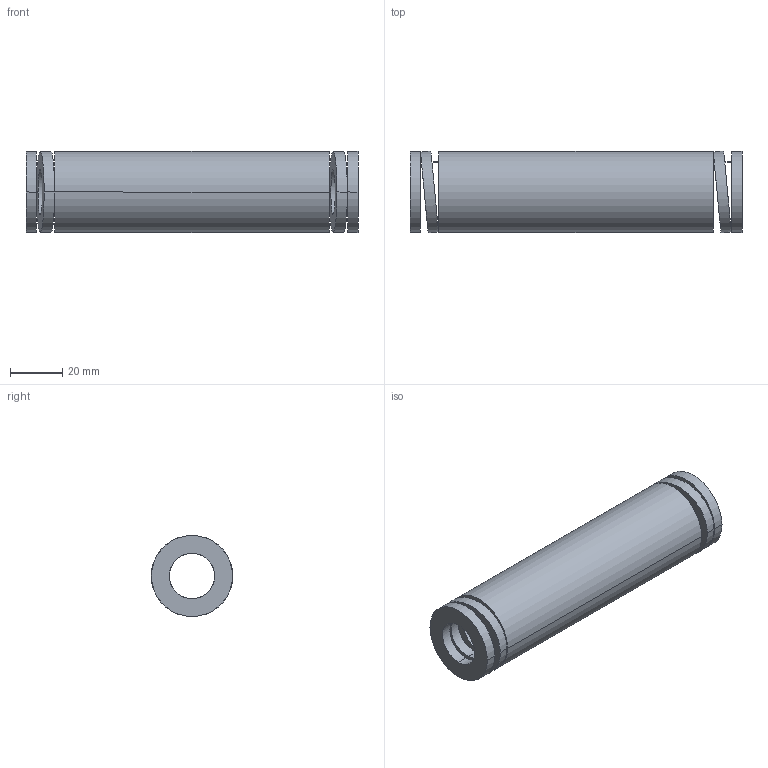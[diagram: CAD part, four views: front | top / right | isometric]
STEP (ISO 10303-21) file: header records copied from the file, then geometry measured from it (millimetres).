
FILE_DESCRIPTION(('CATIA V5 STEP Exchange'),'2;1');
FILE_NAME('C:\Users\Utente\Desktop\IO LAVORO\3D X SITO CF\X SITO\3D files 392B\392-B32-127.stp','2021-08-13T08:53:14+00:00',('none'),('none'),'CATIA Version 5 Release 20 GA (IN-10)','CATIA V5 STEP AP203','none');
FILE_SCHEMA(('CONFIG_CONTROL_DESIGN'));
Length unit declared in the file: millimetre
Products named in the file (1): 392-B32-127
Bounding box: 127 x 31.24 x 31 mm (x, y, z)
Volume: 62546.4 mm3; surface area: 23569.5 mm2
Topology: 1 solids, 1 shells, 38 faces, 92 edges, 64 vertices
Faces by surface type: cylinder 28, plane 10
Entity records: 1542 total; most frequent: CARTESIAN_POINT 643, ORIENTED_EDGE 184, DIRECTION 134, EDGE_CURVE 92, AXIS2_PLACEMENT_3D 69, VERTEX_POINT 64, EDGE_LOOP 56, ADVANCED_FACE 38
